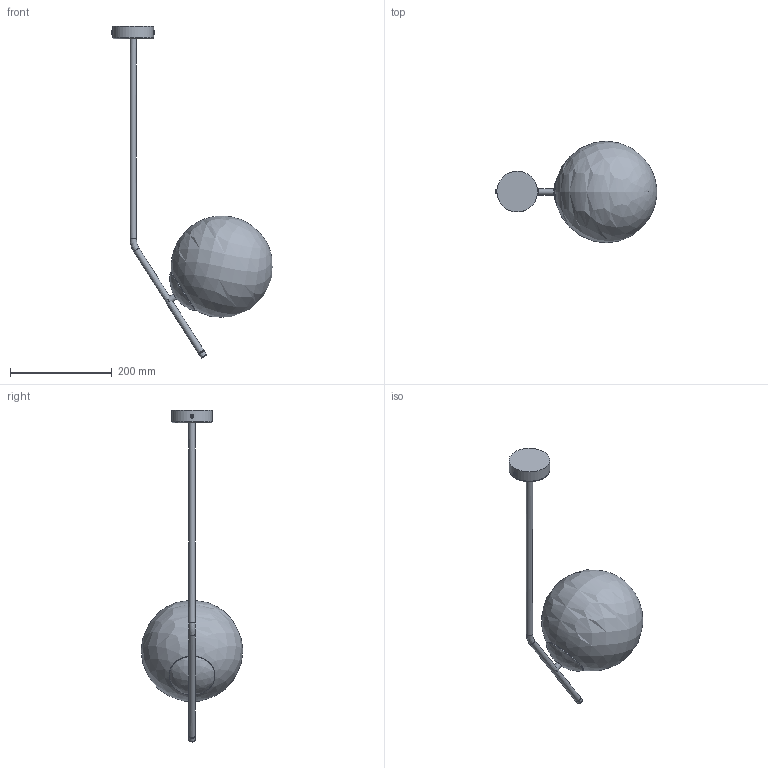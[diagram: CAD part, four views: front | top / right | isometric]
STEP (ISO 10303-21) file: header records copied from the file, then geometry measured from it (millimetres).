
FILE_DESCRIPTION ((), '1');
FILE_NAME ('C:\Users\MiCHAL\Desktop\ALDEX - Modele 3D 17.08.2022\1095PL_G1\1095PL_G1\1095PL_G1.stp', '2022-09-20T03:02:54', ('Unknown'), ('Unknown'), 'HarmonyWare STEP v2.1.4', 'HarmonyWare Translators', '');
FILE_SCHEMA (('CONFIG_CONTROL_DESIGN'));
Length unit declared in the file: centimetre
Assembly tree (8 placements, depth 2):
  (unnamed)
    (unnamed)
    (unnamed)
    (unnamed)
    (unnamed)
    (unnamed)
    (unnamed)
    (unnamed)
    (unnamed)
Bounding box: 316.81 x 200 x 652.5 mm (x, y, z)
Volume: 4468346.5 mm3; surface area: 183743.7 mm2
Topology: 8 solids, 8 shells, 30 faces, 51 edges, 41 vertices
Faces by surface type: bspline 30
Entity records: 3482 total; most frequent: CARTESIAN_POINT 1909, PERSON 88, ORGANIZATION 88, PERSON_AND_ORGANIZATION 88, ORIENTED_EDGE 78, CALENDAR_DATE 61, COORDINATED_UNIVERSAL_TIME_OFFSET 61, LOCAL_TIME 61
